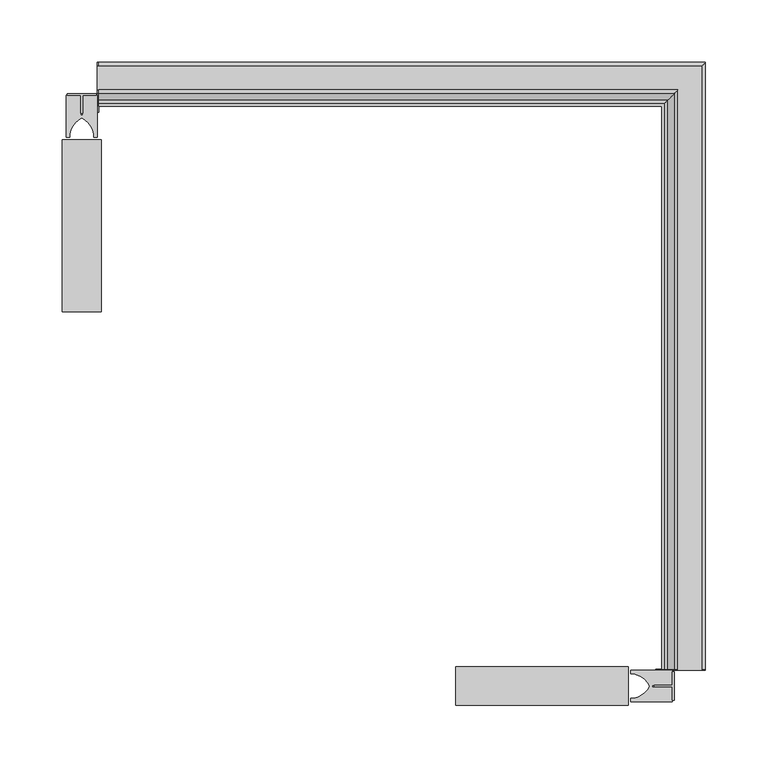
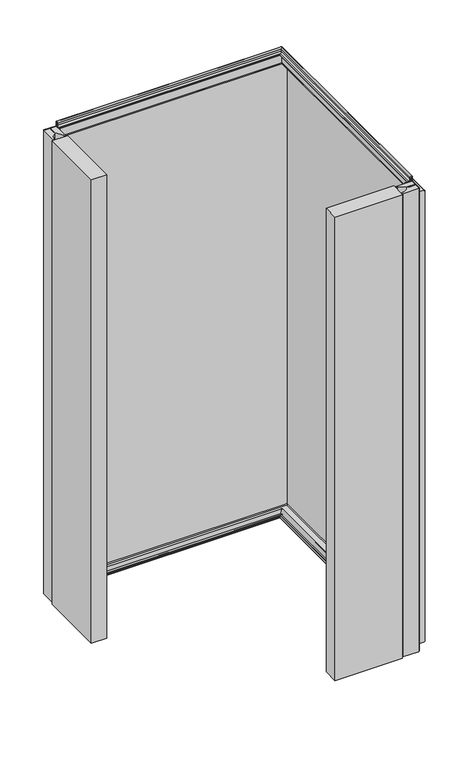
"""IFC4 building model written with IfcOpenShell, lengths in millimetres: plate geometry, Угловой модуль Fronttop : Угловой модуль Fronttop 200/1000."""

from ifc_helpers import new_model, si_unit, point, frame, frame_2d, origin, origin_with_axes, place, context, project, spatial, polyline, circle_curve, ellipse_curve, trimmed, segment, composite_curve, outline, extrude, source, transform, mapped, element, save
from ifc_brep_helpers import plane_surface, cylinder_surface, revolved_surface, advanced_brep


def plate_f072485e(model_context):
    return source(origin(), model_context, "Body", "SolidModel", [
        extrude(outline(polyline([(225.0, -288.4948846), (225.0, -311.5051154), (223.5, -311.5051154), (223.5, -300.6502496), (209.0759655, -300.6502496), (209.0759655, -299.35), (223.5, -299.35), (223.5, -288.4948846), (225.0, -288.4948846)])), origin_with_axes(), (0.0, 0.0, 1.0), 1000.0),
        extrude(outline(composite_curve([segment(polyline([(223.5, -287.4998455), (223.5, -299.25), (207.5, -299.25), (207.5, -300.75), (223.5, -300.75), (223.5, -312.5001545), (190.0, -312.5001545), (190.0, -309.75), (192.5, -309.75)]), True, "CONTINUOUS"), segment(trimmed(circle_curve(frame_2d((189.3183984, -291.9661979)), 18.0661619), [point((192.5, -309.75))], [point((205.5, -300.0))], True, "CARTESIAN"), True, "CONTINUOUS"), segment(trimmed(circle_curve(frame_2d((189.3183984, -308.0338021)), 18.0661619), [point((205.5, -300.0))], [point((192.5, -290.25))], True, "CARTESIAN"), True, "CONTINUOUS"), segment(polyline([(192.5, -290.25), (190.0, -290.25), (190.0, -287.4998455), (223.5, -287.4998455)]), True, "CONTINUOUS")], self_intersect=False)), origin_with_axes(), (0.0, 0.0, 1.0), 1000.0),
        extrude(outline(polyline([(50.0, -315.5), (50.0, -284.5), (188.0, -284.5), (188.0, -315.5), (50.0, -315.5)])), origin_with_axes(), (0.0, 0.0, 1.0), 1000.0),
        extrude(outline(polyline([(-261.5051154, 175.0), (-238.4948846, 175.0), (-238.4948846, 173.5), (-249.3497504, 173.5), (-249.3497504, 159.0759655), (-250.65, 159.0759655), (-250.65, 173.5), (-261.5051154, 173.5), (-261.5051154, 175.0)])), origin_with_axes(), (0.0, 0.0, 1.0), 1000.0),
        extrude(outline(composite_curve([segment(polyline([(-262.5001545, 173.5), (-250.75, 173.5), (-250.75, 157.5), (-249.25, 157.5), (-249.25, 173.5), (-237.4998455, 173.5), (-237.4998455, 140.0), (-240.25, 140.0), (-240.25, 142.5)]), True, "CONTINUOUS"), segment(trimmed(circle_curve(frame_2d((-258.0338021, 139.3183984)), 18.0661619), [point((-240.25, 142.5))], [point((-250.0, 155.5))], True, "CARTESIAN"), True, "CONTINUOUS"), segment(trimmed(circle_curve(frame_2d((-241.9661979, 139.3183984)), 18.0661619), [point((-250.0, 155.5))], [point((-259.75, 142.5))], True, "CARTESIAN"), True, "CONTINUOUS"), segment(polyline([(-259.75, 142.5), (-259.75, 140.0), (-262.5001545, 140.0), (-262.5001545, 173.5)]), True, "CONTINUOUS")], self_intersect=False)), origin_with_axes(), (0.0, 0.0, 1.0), 1000.0),
        extrude(outline(polyline([(-234.5, 0.0), (-265.5, 0.0), (-265.5, 138.0), (-234.5, 138.0), (-234.5, 0.0)])), origin_with_axes(), (0.0, 0.0, 1.0), 1000.0),
        advanced_brep(
        [(-236.5, 174.0, 1008.0), (-236.5, 171.0, 1008.0), (-236.5, 171.0, 1004.0), (-236.5, 167.0, 1000.0), (-236.5, 165.0, 1000.0), (-236.5, 165.0, 1001.0), (-236.5, 167.0, 1001.0), (-236.5, 170.0, 1004.0), (-236.5, 170.0, 1008.0), (-236.5, 175.0, 1008.0), (-236.5, 175.0, 1000.0), (-236.5, 174.0, 1000.0), (-236.5, 165.0, 2.0), (215.0, 165.0, 2.0), (215.0, 165.0, 3.0), (-236.5, 165.0, 3.0), (215.0, -286.5, 3.0), (217.0, -286.5, 3.0), (217.0, 167.0, 3.0), (-236.5, 167.0, 3.0), (218.0, 168.0, 4.0), (-236.5, 168.0, 4.0), (218.0, 168.0, 8.0), (-236.5, 168.0, 8.0), (227.0, 177.0, 8.0), (-236.5, 177.0, 8.0), (227.0, 177.0, 0.0), (-236.5, 177.0, 0.0), (229.0, 179.0, -2.0), (-236.5, 179.0, -2.0), (229.0, -286.5, -2.0), (247.0, -286.5, -2.0), (247.0, 197.0, -2.0), (-236.5, 197.0, -2.0), (249.0, 199.0, 0.0), (-236.5, 199.0, 0.0), (249.0, 199.0, 969.0), (-236.5, 199.0, 969.0), (247.0, 197.0, 971.0), (-236.5, 197.0, 971.0), (247.0, -286.5, 971.0), (228.0, -286.5, 971.0), (228.0, 178.0, 971.0), (-236.5, 178.0, 971.0), (224.0, 174.0, 975.0), (-236.5, 174.0, 975.0), (224.0, 174.0, 1008.0), (221.0, 171.0, 1008.0), (221.0, 171.0, 1004.0), (217.0, 167.0, 1000.0), (217.0, -286.5, 1000.0), (215.0, -286.5, 1000.0), (215.0, 165.0, 1000.0), (215.0, 165.0, 1001.0), (215.0, -286.5, 1001.0), (217.0, -286.5, 1001.0), (217.0, 167.0, 1001.0), (220.0, 170.0, 1004.0), (220.0, 170.0, 1008.0), (225.0, 175.0, 1008.0), (225.0, 175.0, 975.0), (-236.5, 175.0, 975.0), (-237.5, 175.0, 975.0), (-237.5, 175.0, 1000.0), (228.0, 178.0, 972.0), (-236.5, 178.0, 972.0), (228.0, -286.5, 972.0), (228.0, -287.5, 972.0), (247.0, -287.5, 972.0), (247.0, -286.5, 972.0), (247.0, 197.0, 972.0), (-236.5, 197.0, 972.0), (-237.5, 197.0, 972.0), (-237.5, 178.0, 972.0), (250.0, 200.0, 969.0), (-236.5, 200.0, 969.0), (250.0, 200.0, 0.0), (-236.5, 200.0, 0.0), (-237.5, 200.0, 0.0), (-237.5, 200.0, 969.0), (247.0, 197.0, -3.0), (-236.5, 197.0, -3.0), (247.0, -286.5, -3.0), (247.0, -287.5, -3.0), (225.0, -287.5, -3.0), (225.0, -286.5, -3.0), (229.0, -286.5, -3.0), (229.0, 179.0, -3.0), (-236.5, 179.0, -3.0), (-236.5, 175.0, -3.0), (-237.5, 175.0, -3.0), (-237.5, 197.0, -3.0), (226.0, 176.0, 0.0), (-236.5, 176.0, 0.0), (226.0, 176.0, 8.0), (-236.5, 176.0, 8.0), (219.0, 169.0, 8.0), (-236.5, 169.0, 8.0), (219.0, 169.0, 4.0), (-236.5, 169.0, 4.0), (217.0, 167.0, 2.0), (-236.5, 167.0, 2.0), (217.0, -286.5, 2.0), (215.0, -286.5, 2.0), (221.0, -286.5, 1004.0), (221.0, -286.5, 1008.0), (224.0, -286.5, 1008.0), (224.0, -286.5, 1000.0), (225.0, -286.5, 1000.0), (225.0, -286.5, 1008.0), (220.0, -286.5, 1008.0), (220.0, -286.5, 1004.0), (218.0, -286.5, 4.0), (218.0, -286.5, 8.0), (227.0, -286.5, 8.0), (227.0, -286.5, 0.0), (249.0, -286.5, 0.0), (249.0, -286.5, 969.0), (224.0, -286.5, 975.0), (225.0, -287.5, 1000.0), (225.0, -287.5, 975.0), (225.0, -286.5, 975.0), (250.0, -286.5, 969.0), (250.0, -287.5, 969.0), (250.0, -287.5, 0.0), (250.0, -286.5, 0.0), (226.0, -286.5, 0.0), (226.0, -286.5, 8.0), (219.0, -286.5, 8.0), (219.0, -286.5, 4.0), (-236.5, 160.0, 1000.0), (-236.5, 160.0, 0.0), (-236.5, 175.0, 0.0), (-237.5, 175.0, 0.0), (-237.5, 160.0, 0.0), (-237.5, 160.0, 1000.0), (210.0, -286.5, 0.0), (210.0, -286.5, 1000.0), (225.0, -286.5, 0.0), (210.0, -287.5, 0.0), (225.0, -287.5, 0.0), (210.0, -287.5, 1000.0)],
        [
            (0, 1, circle_curve(frame((-236.5, 172.5, 1008.0), z_axis=(1.0, 0.0, 0.0), x_axis=(0.0, -1.0, 0.0)), 1.5)),
            (1, 2),
            (2, 3, circle_curve(frame((-236.5, 167.0, 1004.0), z_axis=(-1.0, 0.0, 0.0), x_axis=(0.0, -1.0, 0.0)), 4.0)),
            (3, 4),
            (4, 5),
            (5, 6),
            (6, 7, circle_curve(frame((-236.5, 167.0, 1004.0), z_axis=(1.0, 0.0, 0.0), x_axis=(0.0, -1.0, 0.0)), 3.0)),
            (7, 8),
            (8, 9, circle_curve(frame((-236.5, 172.5, 1008.0), z_axis=(-1.0, 0.0, 0.0), x_axis=(0.0, -1.0, 0.0)), 2.5)),
            (9, 10),
            (10, 11),
            (11, 0),
            (12, 13),
            (13, 14),
            (14, 15),
            (15, 12),
            (14, 16),
            (16, 17),
            (17, 18),
            (18, 19),
            (19, 15),
            (18, 20, ellipse_curve(frame((217.0, 167.0, 4.0), z_axis=(0.7071067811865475, -0.7071067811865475, 0.0), x_axis=(0.7071067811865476, 0.7071067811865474, 0.0)), 1.4142136, 1.0)),
            (20, 21),
            (21, 19, circle_curve(frame((-236.5, 167.0, 4.0), z_axis=(-1.0, 0.0, 0.0), x_axis=(0.0, -1.0, 0.0)), 1.0)),
            (20, 22),
            (22, 23),
            (23, 21),
            (22, 24, ellipse_curve(frame((222.5, 172.5, 8.0), z_axis=(-0.7071067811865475, 0.7071067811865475, 0.0), x_axis=(-0.7071067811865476, -0.7071067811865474, 0.0)), 6.363961, 4.5)),
            (24, 25),
            (25, 23, circle_curve(frame((-236.5, 172.5, 8.0), z_axis=(1.0, 0.0, 0.0), x_axis=(0.0, -1.0, 0.0)), 4.5)),
            (24, 26),
            (26, 27),
            (27, 25),
            (26, 28, ellipse_curve(frame((229.0, 179.0, 0.0), z_axis=(0.7071067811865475, -0.7071067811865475, 0.0), x_axis=(0.7071067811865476, 0.7071067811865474, 0.0)), 2.8284271, 2.0)),
            (28, 29),
            (29, 27, circle_curve(frame((-236.5, 179.0, 0.0), z_axis=(-1.0, 0.0, 0.0), x_axis=(0.0, -1.0, 0.0)), 2.0)),
            (28, 30),
            (30, 31),
            (31, 32),
            (32, 33),
            (33, 29),
            (32, 34, ellipse_curve(frame((247.0, 197.0, 0.0), z_axis=(0.7071067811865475, -0.7071067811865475, 0.0), x_axis=(0.7071067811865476, 0.7071067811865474, 0.0)), 2.8284271, 2.0)),
            (34, 35),
            (35, 33, circle_curve(frame((-236.5, 197.0, 0.0), z_axis=(-1.0, 0.0, 0.0), x_axis=(0.0, -1.0, 0.0)), 2.0)),
            (34, 36),
            (36, 37),
            (37, 35),
            (36, 38, ellipse_curve(frame((247.0, 197.0, 969.0), z_axis=(0.7071067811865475, -0.7071067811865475, 0.0), x_axis=(0.7071067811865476, 0.7071067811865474, 0.0)), 2.8284271, 2.0)),
            (38, 39),
            (39, 37, circle_curve(frame((-236.5, 197.0, 969.0), z_axis=(-1.0, 0.0, 0.0), x_axis=(0.0, -1.0, 0.0)), 2.0)),
            (38, 40),
            (40, 41),
            (41, 42),
            (42, 43),
            (43, 39),
            (42, 44, ellipse_curve(frame((228.0, 178.0, 975.0), z_axis=(-0.7071067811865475, 0.7071067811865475, 0.0), x_axis=(-0.7071067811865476, -0.7071067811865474, 0.0)), 5.6568542, 4.0)),
            (44, 45),
            (45, 43, circle_curve(frame((-236.5, 178.0, 975.0), z_axis=(1.0, 0.0, 0.0), x_axis=(0.0, -1.0, 0.0)), 4.0)),
            (44, 46),
            (46, 0),
            (11, 45),
            (46, 47, ellipse_curve(frame((222.5, 172.5, 1008.0), z_axis=(0.7071067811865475, -0.7071067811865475, 0.0), x_axis=(0.7071067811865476, 0.7071067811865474, 0.0)), 2.1213203, 1.5)),
            (47, 1),
            (47, 48),
            (48, 2),
            (48, 49, ellipse_curve(frame((217.0, 167.0, 1004.0), z_axis=(-0.7071067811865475, 0.7071067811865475, 0.0), x_axis=(-0.7071067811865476, -0.7071067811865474, 0.0)), 5.6568542, 4.0)),
            (49, 3),
            (49, 50),
            (50, 51),
            (51, 52),
            (52, 4),
            (4, 3),
            (52, 53),
            (53, 5),
            (53, 54),
            (54, 55),
            (55, 56),
            (56, 6),
            (56, 57, ellipse_curve(frame((217.0, 167.0, 1004.0), z_axis=(0.7071067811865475, -0.7071067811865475, 0.0), x_axis=(0.7071067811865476, 0.7071067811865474, 0.0)), 4.2426407, 3.0)),
            (57, 7),
            (57, 58),
            (58, 8),
            (58, 59, ellipse_curve(frame((222.5, 172.5, 1008.0), z_axis=(-0.7071067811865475, 0.7071067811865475, 0.0), x_axis=(-0.7071067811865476, -0.7071067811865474, 0.0)), 3.5355339, 2.5)),
            (59, 9),
            (59, 60),
            (60, 61),
            (61, 62),
            (62, 63),
            (63, 10),
            (60, 64, ellipse_curve(frame((228.0, 178.0, 975.0), z_axis=(0.7071067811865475, -0.7071067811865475, 0.0), x_axis=(0.7071067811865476, 0.7071067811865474, 0.0)), 4.2426407, 3.0)),
            (64, 65),
            (65, 61, circle_curve(frame((-236.5, 178.0, 975.0), z_axis=(-1.0, 0.0, 0.0), x_axis=(0.0, -1.0, 0.0)), 3.0)),
            (64, 66),
            (66, 67),
            (67, 68),
            (68, 69),
            (69, 70),
            (70, 71),
            (71, 72),
            (72, 73),
            (73, 65),
            (70, 74, ellipse_curve(frame((247.0, 197.0, 969.0), z_axis=(-0.7071067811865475, 0.7071067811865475, 0.0), x_axis=(-0.7071067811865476, -0.7071067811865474, 0.0)), 4.2426407, 3.0)),
            (74, 75),
            (75, 71, circle_curve(frame((-236.5, 197.0, 969.0), z_axis=(1.0, 0.0, 0.0), x_axis=(0.0, -1.0, 0.0)), 3.0)),
            (74, 76),
            (76, 77),
            (77, 78),
            (78, 79),
            (79, 75),
            (76, 80, ellipse_curve(frame((247.0, 197.0, 0.0), z_axis=(-0.7071067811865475, 0.7071067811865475, 0.0), x_axis=(-0.7071067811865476, -0.7071067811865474, 0.0)), 4.2426407, 3.0)),
            (80, 81),
            (81, 77, circle_curve(frame((-236.5, 197.0, 0.0), z_axis=(1.0, 0.0, 0.0), x_axis=(0.0, -1.0, 0.0)), 3.0)),
            (80, 82),
            (82, 83),
            (83, 84),
            (84, 85),
            (85, 86),
            (86, 87),
            (87, 88),
            (88, 89),
            (89, 90),
            (90, 91),
            (91, 81),
            (87, 92, ellipse_curve(frame((229.0, 179.0, 0.0), z_axis=(-0.7071067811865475, 0.7071067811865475, 0.0), x_axis=(-0.7071067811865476, -0.7071067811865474, 0.0)), 4.2426407, 3.0)),
            (92, 93),
            (93, 88, circle_curve(frame((-236.5, 179.0, 0.0), z_axis=(1.0, 0.0, 0.0), x_axis=(0.0, -1.0, 0.0)), 3.0)),
            (92, 94),
            (94, 95),
            (95, 93),
            (94, 96, ellipse_curve(frame((222.5, 172.5, 8.0), z_axis=(0.7071067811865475, -0.7071067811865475, 0.0), x_axis=(0.7071067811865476, 0.7071067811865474, 0.0)), 4.9497475, 3.5)),
            (96, 97),
            (97, 95, circle_curve(frame((-236.5, 172.5, 8.0), z_axis=(-1.0, 0.0, 0.0), x_axis=(0.0, -1.0, 0.0)), 3.5)),
            (96, 98),
            (98, 99),
            (99, 97),
            (98, 100, ellipse_curve(frame((217.0, 167.0, 4.0), z_axis=(-0.7071067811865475, 0.7071067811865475, 0.0), x_axis=(-0.7071067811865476, -0.7071067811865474, 0.0)), 2.8284271, 2.0)),
            (100, 101),
            (101, 99, circle_curve(frame((-236.5, 167.0, 4.0), z_axis=(1.0, 0.0, 0.0), x_axis=(0.0, -1.0, 0.0)), 2.0)),
            (12, 101),
            (100, 102),
            (102, 103),
            (103, 13),
            (54, 51),
            (51, 50),
            (50, 104, circle_curve(frame((217.0, -286.5, 1004.0), z_axis=(0.0, -1.0, 0.0), x_axis=(-1.0, 0.0, 0.0)), 4.0)),
            (104, 105),
            (105, 106, circle_curve(frame((222.5, -286.5, 1008.0), z_axis=(0.0, 1.0, 0.0), x_axis=(-1.0, 0.0, 0.0)), 1.5)),
            (106, 107),
            (107, 108),
            (108, 109),
            (109, 110, circle_curve(frame((222.5, -286.5, 1008.0), z_axis=(0.0, -1.0, 0.0), x_axis=(-1.0, 0.0, 0.0)), 2.5)),
            (110, 111),
            (111, 55, circle_curve(frame((217.0, -286.5, 1004.0), z_axis=(0.0, 1.0, 0.0), x_axis=(-1.0, 0.0, 0.0)), 3.0)),
            (103, 16),
            (17, 112, circle_curve(frame((217.0, -286.5, 4.0), z_axis=(0.0, -1.0, 0.0), x_axis=(-1.0, 0.0, 0.0)), 1.0)),
            (112, 20),
            (112, 113),
            (113, 22),
            (113, 114, circle_curve(frame((222.5, -286.5, 8.0), z_axis=(0.0, 1.0, 0.0), x_axis=(-1.0, 0.0, 0.0)), 4.5)),
            (114, 24),
            (114, 115),
            (115, 26),
            (115, 30, circle_curve(frame((229.0, -286.5, 0.0), z_axis=(0.0, -1.0, 0.0), x_axis=(-1.0, 0.0, 0.0)), 2.0)),
            (31, 116, circle_curve(frame((247.0, -286.5, 0.0), z_axis=(0.0, -1.0, 0.0), x_axis=(-1.0, 0.0, 0.0)), 2.0)),
            (116, 34),
            (116, 117),
            (117, 36),
            (117, 40, circle_curve(frame((247.0, -286.5, 969.0), z_axis=(0.0, -1.0, 0.0), x_axis=(-1.0, 0.0, 0.0)), 2.0)),
            (41, 118, circle_curve(frame((228.0, -286.5, 975.0), z_axis=(0.0, 1.0, 0.0), x_axis=(-1.0, 0.0, 0.0)), 4.0)),
            (118, 44),
            (118, 107),
            (106, 46),
            (105, 47),
            (104, 48),
            (111, 57),
            (110, 58),
            (109, 59),
            (108, 119),
            (119, 120),
            (120, 121),
            (121, 60),
            (121, 66, circle_curve(frame((228.0, -286.5, 975.0), z_axis=(0.0, -1.0, 0.0), x_axis=(-1.0, 0.0, 0.0)), 3.0)),
            (69, 122, circle_curve(frame((247.0, -286.5, 969.0), z_axis=(0.0, 1.0, 0.0), x_axis=(-1.0, 0.0, 0.0)), 3.0)),
            (122, 74),
            (122, 123),
            (123, 124),
            (124, 125),
            (125, 76),
            (125, 82, circle_curve(frame((247.0, -286.5, 0.0), z_axis=(0.0, 1.0, 0.0), x_axis=(-1.0, 0.0, 0.0)), 3.0)),
            (86, 126, circle_curve(frame((229.0, -286.5, 0.0), z_axis=(0.0, 1.0, 0.0), x_axis=(-1.0, 0.0, 0.0)), 3.0)),
            (126, 92),
            (126, 127),
            (127, 94),
            (127, 128, circle_curve(frame((222.5, -286.5, 8.0), z_axis=(0.0, -1.0, 0.0), x_axis=(-1.0, 0.0, 0.0)), 3.5)),
            (128, 96),
            (128, 129),
            (129, 98),
            (129, 102, circle_curve(frame((217.0, -286.5, 4.0), z_axis=(0.0, 1.0, 0.0), x_axis=(-1.0, 0.0, 0.0)), 2.0)),
            (130, 131),
            (131, 132),
            (132, 89),
            (11, 3),
            (4, 130),
            (62, 73, circle_curve(frame((-237.5, 178.0, 975.0), z_axis=(1.0, 0.0, 0.0), x_axis=(0.0, 1.0, 0.0)), 3.0)),
            (72, 79, circle_curve(frame((-237.5, 197.0, 969.0), z_axis=(-1.0, 0.0, 0.0), x_axis=(0.0, 1.0, 0.0)), 3.0)),
            (78, 91, circle_curve(frame((-237.5, 197.0, 0.0), z_axis=(-1.0, 0.0, 0.0), x_axis=(0.0, 1.0, 0.0)), 3.0)),
            (90, 133),
            (133, 134),
            (134, 135),
            (135, 63),
            (135, 130),
            (134, 131),
            (133, 132),
            (136, 137),
            (137, 51),
            (50, 107),
            (85, 138),
            (138, 136),
            (139, 140),
            (140, 84),
            (83, 124, circle_curve(frame((247.0, -287.5, 0.0), z_axis=(0.0, -1.0, 0.0), x_axis=(-1.0, 0.0, 0.0)), 3.0)),
            (123, 68, circle_curve(frame((247.0, -287.5, 969.0), z_axis=(0.0, -1.0, 0.0), x_axis=(-1.0, 0.0, 0.0)), 3.0)),
            (67, 120, circle_curve(frame((228.0, -287.5, 975.0), z_axis=(0.0, 1.0, 0.0), x_axis=(-1.0, 0.0, 0.0)), 3.0)),
            (119, 141),
            (141, 139),
            (138, 140),
            (139, 136),
            (137, 141),
        ],
        [
            plane_surface(frame((-236.5, 0.0, 0.0), z_axis=(-1.0, 0.0, 0.0), x_axis=(0.0, 0.0, 1.0))),
            plane_surface(frame((-236.5, 165.0, 2.0), z_axis=(0.0, -1.0, 0.0), x_axis=(1.0, 0.0, 0.0))),
            plane_surface(frame((-236.5, 165.0, 3.0), z_axis=(0.0, 0.0, 1.0), x_axis=(1.0, 0.0, 0.0))),
            revolved_surface(polyline([(218.00000002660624, 166.0, 4.0), (-236.5, 166.0, 4.0)]), (-236.5, 167.0, 4.0), (1.0, 0.0, 0.0)),
            plane_surface(frame((-236.5, 168.0, 4.0), z_axis=(0.0, -1.0, 0.0), x_axis=(1.0, 0.0, 0.0))),
            cylinder_surface(frame((-236.5, 172.5, 8.0), z_axis=(-1.0, 0.0, 0.0), x_axis=(0.0, -1.0, 0.0)), 4.5),
            plane_surface(frame((-236.5, 177.0, 8.0), z_axis=(0.0, 1.0, 0.0), x_axis=(1.0, 0.0, 0.0))),
            revolved_surface(polyline([(230.99999998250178, 177.0, 0.0), (-236.5, 177.0, 0.0)]), (-236.5, 179.0, 0.0), (1.0, 0.0, 0.0)),
            plane_surface(frame((-236.5, 179.0, -2.0), z_axis=(0.0, 0.0, 1.0), x_axis=(1.0, 0.0, 0.0))),
            revolved_surface(polyline([(249.0, 195.0, 0.0), (-236.5, 195.0, 0.0)]), (-236.5, 197.0, 0.0), (1.0, 0.0, 0.0)),
            plane_surface(frame((-236.5, 199.0, 0.0), z_axis=(0.0, -1.0, 0.0), x_axis=(1.0, 0.0, 0.0))),
            revolved_surface(polyline([(249.0, 195.0, 969.0), (-236.5, 195.0, 969.0)]), (-236.5, 197.0, 969.0), (1.0, 0.0, 0.0)),
            plane_surface(frame((-236.5, 197.0, 971.0), z_axis=(0.0, 0.0, -1.0), x_axis=(1.0, 0.0, 0.0))),
            cylinder_surface(frame((-236.5, 178.0, 975.0), z_axis=(-1.0, 0.0, 0.0), x_axis=(0.0, -1.0, 0.0)), 4.0),
            plane_surface(frame((-236.5, 174.0, 975.0), z_axis=(0.0, -1.0, 0.0), x_axis=(1.0, 0.0, 0.0))),
            revolved_surface(polyline([(224.0, 171.0, 1008.0), (-236.5, 171.0, 1008.0)]), (-236.5, 172.5, 1008.0), (1.0, 0.0, 0.0)),
            plane_surface(frame((-236.5, 171.0, 1008.0), z_axis=(0.0, 1.0, 0.0), x_axis=(1.0, 0.0, 0.0))),
            cylinder_surface(frame((-236.5, 167.0, 1004.0), z_axis=(-1.0, 0.0, 0.0), x_axis=(0.0, -1.0, 0.0)), 4.0),
            plane_surface(frame((-236.5, 167.0, 1000.0), z_axis=(0.0, 0.0, -1.0), x_axis=(1.0, 0.0, 0.0))),
            plane_surface(frame((-236.5, 165.0, 1000.0), z_axis=(0.0, -1.0, 0.0), x_axis=(1.0, 0.0, 0.0))),
            plane_surface(frame((-236.5, 165.0, 1001.0), z_axis=(0.0, 0.0, 1.0), x_axis=(1.0, 0.0, 0.0))),
            revolved_surface(polyline([(220.00000000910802, 164.0, 1004.0), (-236.5, 164.0, 1004.0)]), (-236.5, 167.0, 1004.0), (1.0, 0.0, 0.0)),
            plane_surface(frame((-236.5, 170.0, 1004.0), z_axis=(0.0, -1.0, 0.0), x_axis=(1.0, 0.0, 0.0))),
            cylinder_surface(frame((-236.5, 172.5, 1008.0), z_axis=(-1.0, 0.0, 0.0), x_axis=(0.0, -1.0, 0.0)), 2.5),
            plane_surface(frame((-236.5, 175.0, 1008.0), z_axis=(0.0, 1.0, 0.0), x_axis=(1.0, 0.0, 0.0))),
            revolved_surface(polyline([(231.00000000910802, 175.0, 975.0), (-236.5, 175.0, 975.0)]), (-236.5, 178.0, 975.0), (1.0, 0.0, 0.0)),
            plane_surface(frame((-236.5, 178.0, 972.0), z_axis=(0.0, 0.0, 1.0), x_axis=(1.0, 0.0, 0.0))),
            cylinder_surface(frame((-236.5, 197.0, 969.0), z_axis=(-1.0, 0.0, 0.0), x_axis=(0.0, -1.0, 0.0)), 3.0),
            plane_surface(frame((-236.5, 200.0, 969.0), z_axis=(0.0, 1.0, 0.0), x_axis=(1.0, 0.0, 0.0))),
            cylinder_surface(frame((-236.5, 197.0, 0.0), z_axis=(-1.0, 0.0, 0.0), x_axis=(0.0, -1.0, 0.0)), 3.0),
            plane_surface(frame((-236.5, 197.0, -3.0), z_axis=(0.0, 0.0, -1.0), x_axis=(1.0, 0.0, 0.0))),
            cylinder_surface(frame((-236.5, 179.0, 0.0), z_axis=(-1.0, 0.0, 0.0), x_axis=(0.0, -1.0, 0.0)), 3.0),
            plane_surface(frame((-236.5, 176.0, 0.0), z_axis=(0.0, -1.0, 0.0), x_axis=(1.0, 0.0, 0.0))),
            revolved_surface(polyline([(226.00000002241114, 169.0, 8.0), (-236.5, 169.0, 8.0)]), (-236.5, 172.5, 8.0), (1.0, 0.0, 0.0)),
            plane_surface(frame((-236.5, 169.0, 8.0), z_axis=(0.0, 1.0, 0.0), x_axis=(1.0, 0.0, 0.0))),
            cylinder_surface(frame((-236.5, 167.0, 4.0), z_axis=(-1.0, 0.0, 0.0), x_axis=(0.0, -1.0, 0.0)), 2.0),
            plane_surface(frame((-236.5, 167.0, 2.0), z_axis=(0.0, 0.0, -1.0), x_axis=(1.0, 0.0, 0.0))),
            plane_surface(frame((50.0, -286.5, 0.0), z_axis=(0.0, -1.0, 0.0), x_axis=(0.0, 0.0, 1.0))),
            plane_surface(frame((215.0, 165.0, 2.0), z_axis=(-1.0, 0.0, 0.0), x_axis=(0.0, -1.0, 0.0))),
            revolved_surface(polyline([(216.0, -286.5, 4.0), (216.0, 168.00000002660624, 4.0)]), (217.0, 0.0, 4.0), (0.0, -1.0, 0.0)),
            plane_surface(frame((218.0, 168.0, 4.0), z_axis=(-1.0, 0.0, 0.0), x_axis=(0.0, -1.0, 0.0))),
            cylinder_surface(frame((222.5, 0.0, 8.0), z_axis=(0.0, 1.0, 0.0), x_axis=(-1.0, 0.0, 0.0)), 4.5),
            plane_surface(frame((227.0, 177.0, 8.0), z_axis=(1.0, 0.0, 0.0), x_axis=(0.0, -1.0, 0.0))),
            revolved_surface(polyline([(227.0, -286.5, 0.0), (227.0, 180.9999999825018, 0.0)]), (229.0, 0.0, 0.0), (0.0, -1.0, 0.0)),
            revolved_surface(polyline([(245.0, -286.5, 0.0), (245.0, 199.0, 0.0)]), (247.0, 0.0, 0.0), (0.0, -1.0, 0.0)),
            plane_surface(frame((249.0, 199.0, 0.0), z_axis=(-1.0, 0.0, 0.0), x_axis=(0.0, -1.0, 0.0))),
            revolved_surface(polyline([(245.0, -286.5, 969.0), (245.0, 199.0, 969.0)]), (247.0, 0.0, 969.0), (0.0, -1.0, 0.0)),
            cylinder_surface(frame((228.0, 0.0, 975.0), z_axis=(0.0, 1.0, 0.0), x_axis=(-1.0, 0.0, 0.0)), 4.0),
            plane_surface(frame((224.0, 174.0, 975.0), z_axis=(-1.0, 0.0, 0.0), x_axis=(0.0, -1.0, 0.0))),
            revolved_surface(polyline([(221.0, -286.5, 1008.0), (221.0, 174.0, 1008.0)]), (222.5, 0.0, 1008.0), (0.0, -1.0, 0.0)),
            plane_surface(frame((221.0, 171.0, 1008.0), z_axis=(1.0, 0.0, 0.0), x_axis=(0.0, -1.0, 0.0))),
            cylinder_surface(frame((217.0, 0.0, 1004.0), z_axis=(0.0, 1.0, 0.0), x_axis=(-1.0, 0.0, 0.0)), 4.0),
            plane_surface(frame((215.0, 165.0, 1000.0), z_axis=(-1.0, 0.0, 0.0), x_axis=(0.0, -1.0, 0.0))),
            revolved_surface(polyline([(214.0, -286.5, 1004.0), (214.0, 170.00000000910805, 1004.0)]), (217.0, 0.0, 1004.0), (0.0, -1.0, 0.0)),
            plane_surface(frame((220.0, 170.0, 1004.0), z_axis=(-1.0, 0.0, 0.0), x_axis=(0.0, -1.0, 0.0))),
            cylinder_surface(frame((222.5, 0.0, 1008.0), z_axis=(0.0, 1.0, 0.0), x_axis=(-1.0, 0.0, 0.0)), 2.5),
            plane_surface(frame((225.0, 175.0, 1008.0), z_axis=(1.0, 0.0, 0.0), x_axis=(0.0, -1.0, 0.0))),
            revolved_surface(polyline([(225.0, -286.5, 975.0), (225.0, 181.00000000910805, 975.0)]), (228.0, 0.0, 975.0), (0.0, -1.0, 0.0)),
            cylinder_surface(frame((247.0, 0.0, 969.0), z_axis=(0.0, 1.0, 0.0), x_axis=(-1.0, 0.0, 0.0)), 3.0),
            plane_surface(frame((250.0, 200.0, 969.0), z_axis=(1.0, 0.0, 0.0), x_axis=(0.0, -1.0, 0.0))),
            cylinder_surface(frame((247.0, 0.0, 0.0), z_axis=(0.0, 1.0, 0.0), x_axis=(-1.0, 0.0, 0.0)), 3.0),
            cylinder_surface(frame((229.0, 0.0, 0.0), z_axis=(0.0, 1.0, 0.0), x_axis=(-1.0, 0.0, 0.0)), 3.0),
            plane_surface(frame((226.0, 176.0, 0.0), z_axis=(-1.0, 0.0, 0.0), x_axis=(0.0, -1.0, 0.0))),
            revolved_surface(polyline([(219.0, -286.5, 8.0), (219.0, 176.00000002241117, 8.0)]), (222.5, 0.0, 8.0), (0.0, -1.0, 0.0)),
            plane_surface(frame((219.0, 169.0, 8.0), z_axis=(1.0, 0.0, 0.0), x_axis=(0.0, -1.0, 0.0))),
            cylinder_surface(frame((217.0, 0.0, 4.0), z_axis=(0.0, 1.0, 0.0), x_axis=(-1.0, 0.0, 0.0)), 2.0),
            plane_surface(frame((-236.5, 175.0, 1000.0), z_axis=(1.0, 0.0, 0.0), x_axis=(0.0, -1.0, 0.0))),
            plane_surface(frame((-237.5, 175.0, 1000.0), z_axis=(-1.0, 0.0, 0.0), x_axis=(0.0, 1.0, 0.0))),
            plane_surface(frame((-236.5, 175.0, 1000.0), z_axis=(0.0, 0.0, 1.0), x_axis=(-1.0, 0.0, 0.0))),
            plane_surface(frame((-236.5, 160.0, 1000.0), z_axis=(0.0, -1.0, 0.0), x_axis=(-1.0, 0.0, 0.0))),
            plane_surface(frame((-236.5, 160.0, 0.0), z_axis=(0.0, 0.0, -1.0), x_axis=(-1.0, 0.0, 0.0))),
            plane_surface(frame((-236.5, 175.0, 0.0), z_axis=(0.0, -1.0, 0.0), x_axis=(-1.0, 0.0, 0.0))),
            cylinder_surface(frame((-237.5, 197.0, 0.0), z_axis=(1.0, 0.0, 0.0), x_axis=(0.0, 1.0, 0.0)), 3.0),
            cylinder_surface(frame((-237.5, 197.0, 969.0), z_axis=(1.0, 0.0, 0.0), x_axis=(0.0, 1.0, 0.0)), 3.0),
            revolved_surface(polyline([(-237.5, 181.0, 975.0), (-236.5, 181.0, 975.0)]), (-237.5, 178.0, 975.0), (-1.0, 0.0, 0.0)),
            plane_surface(frame((210.0, -286.5, 1000.0), z_axis=(0.0, 1.0, 0.0), x_axis=(0.0, 0.0, 1.0))),
            plane_surface(frame((210.0, -287.5, 1000.0), z_axis=(0.0, -1.0, 0.0), x_axis=(0.0, 0.0, -1.0))),
            plane_surface(frame((225.0, -286.5, 0.0), z_axis=(0.0, 0.0, -1.0), x_axis=(0.0, -1.0, 0.0))),
            plane_surface(frame((225.0, -286.5, -3.0), z_axis=(-1.0, 0.0, 0.0), x_axis=(0.0, -1.0, 0.0))),
            cylinder_surface(frame((247.0, -287.5, 0.0), z_axis=(0.0, 1.0, 0.0), x_axis=(-1.0, 0.0, 0.0)), 3.0),
            cylinder_surface(frame((247.0, -287.5, 969.0), z_axis=(0.0, 1.0, 0.0), x_axis=(-1.0, 0.0, 0.0)), 3.0),
            revolved_surface(polyline([(225.0, -287.5, 975.0), (225.0, -286.5, 975.0)]), (228.0, -287.5, 975.0), (0.0, -1.0, 0.0)),
            plane_surface(frame((210.0, -286.5, 1000.0), z_axis=(0.0, 0.0, 1.0), x_axis=(0.0, -1.0, 0.0))),
            plane_surface(frame((210.0, -286.5, 0.0), z_axis=(-1.0, 0.0, 0.0), x_axis=(0.0, -1.0, 0.0))),
        ],
        [
            (0, [[1, 2, 3, 4, 5, 6, 7, 8, 9, 10, 11, 12]]),
            (1, [[13, 14, 15, 16]]),
            (2, [[-15, 17, 18, 19, 20, 21]]),
            (3, [[-20, 22, 23, 24]]),
            (4, [[-23, 25, 26, 27]]),
            (5, [[-26, 28, 29, 30]]),
            (6, [[-29, 31, 32, 33]]),
            (7, [[-32, 34, 35, 36]]),
            (8, [[-35, 37, 38, 39, 40, 41]]),
            (9, [[-40, 42, 43, 44]]),
            (10, [[-43, 45, 46, 47]]),
            (11, [[-46, 48, 49, 50]]),
            (12, [[-49, 51, 52, 53, 54, 55]]),
            (13, [[-54, 56, 57, 58]]),
            (14, [[-57, 59, 60, -12, 61]]),
            (15, [[-1, -60, 62, 63]]),
            (16, [[-2, -63, 64, 65]]),
            (17, [[-3, -65, 66, 67]]),
            (18, [[-67, 68, 69, 70, 71, 72]]),
            (19, [[-5, -71, 73, 74]]),
            (20, [[-6, -74, 75, 76, 77, 78]]),
            (21, [[-7, -78, 79, 80]]),
            (22, [[-8, -80, 81, 82]]),
            (23, [[-9, -82, 83, 84]]),
            (24, [[-84, 85, 86, 87, 88, 89, -10]]),
            (25, [[-86, 90, 91, 92]]),
            (26, [[-91, 93, 94, 95, 96, 97, 98, 99, 100, 101]]),
            (27, [[-98, 102, 103, 104]]),
            (28, [[-103, 105, 106, 107, 108, 109]]),
            (29, [[-106, 110, 111, 112]]),
            (30, [[-111, 113, 114, 115, 116, 117, 118, 119, 120, 121, 122, 123]]),
            (31, [[-119, 124, 125, 126]]),
            (32, [[-125, 127, 128, 129]]),
            (33, [[-128, 130, 131, 132]]),
            (34, [[-131, 133, 134, 135]]),
            (35, [[-134, 136, 137, 138]]),
            (36, [[-13, 139, -137, 140, 141, 142]]),
            (37, [[-76, 143, 144, 145, 146, 147, 148, 149, 150, 151, 152, 153]]),
            (38, [[-14, -142, 154, -17]]),
            (39, [[-19, 155, 156, -22]]),
            (40, [[-25, -156, 157, 158]]),
            (41, [[-28, -158, 159, 160]]),
            (42, [[-31, -160, 161, 162]]),
            (43, [[-34, -162, 163, -37]]),
            (44, [[-39, 164, 165, -42]]),
            (45, [[-45, -165, 166, 167]]),
            (46, [[-48, -167, 168, -51]]),
            (47, [[-53, 169, 170, -56]]),
            (48, [[-59, -170, 171, -148, 172]]),
            (49, [[-62, -172, -147, 173]]),
            (50, [[-64, -173, -146, 174]]),
            (51, [[-66, -174, -145, -68]]),
            (52, [[-70, -143, -75, -73]]),
            (53, [[-77, -153, 175, -79]]),
            (54, [[-81, -175, -152, 176]]),
            (55, [[-83, -176, -151, 177]]),
            (56, [[-85, -177, -150, 178, 179, 180, 181]]),
            (57, [[-90, -181, 182, -93]]),
            (58, [[-97, 183, 184, -102]]),
            (59, [[-105, -184, 185, 186, 187, 188]]),
            (60, [[-110, -188, 189, -113]]),
            (61, [[-118, 190, 191, -124]]),
            (62, [[-127, -191, 192, 193]]),
            (63, [[-130, -193, 194, 195]]),
            (64, [[-133, -195, 196, 197]]),
            (65, [[-136, -197, 198, -140]]),
            (66, [[199, 200, 201, -120, -126, -129, -132, -135, -138, -139, -16, -21, -24, -27, -30, -33, -36, -41, -44, -47, -50, -55, -58, -61, 202, -72, 203]]),
            (67, [[-88, 204, -100, 205, -108, 206, -122, 207, 208, 209, 210]]),
            (68, [[-210, 211, -203, -4, -202, -11, -89]]),
            (69, [[-199, -211, -209, 212]]),
            (70, [[-200, -212, -208, 213]]),
            (71, [[-201, -213, -207, -121]]),
            (72, [[-206, -107, -112, -123]]),
            (73, [[-205, -99, -104, -109]]),
            (74, [[-204, -87, -92, -101]]),
            (75, [[214, 215, -69, 216, -171, -169, -52, -168, -166, -164, -38, -163, -161, -159, -157, -155, -18, -154, -141, -198, -196, -194, -192, -190, -117, 217, 218]]),
            (76, [[219, 220, -115, 221, -186, 222, -95, 223, -179, 224, 225]]),
            (77, [[-218, 226, -219, 227]]),
            (78, [[-217, -116, -220, -226]]),
            (79, [[-221, -114, -189, -187]]),
            (80, [[-222, -185, -183, -96]]),
            (81, [[-223, -94, -182, -180]]),
            (82, [[-224, -178, -149, -216, -144, -215, 228]]),
            (83, [[-214, -227, -225, -228]]),
        ],
    ),
    ])


if __name__ == "__main__":
    model = new_model("IFC4")
    model_context = context("Model", 3, world=origin())
    ifc_project = project(units=[si_unit("LENGTHUNIT", "METRE", prefix="MILLI")], contexts=[model_context])
    site = spatial("IfcSite", under=ifc_project)
    building = spatial("IfcBuilding", under=site)
    placement = place(None, origin())
    plate_shape = plate_f072485e(model_context)
    element("IfcPlate", 1, ObjectType="Угловой модуль Fronttop : Угловой модуль Fronttop 200/1000", at=placement, inside=building, context=model_context, shape_type="MappedRepresentation", body=[
        mapped(plate_shape, transform((0.0, 0.0, 0.0), x_axis=(1.0, 0.0, 0.0), y_axis=(0.0, 1.0, 0.0), z_axis=(0.0, 0.0, 1.0))),
    ])
    save(model, "model.ifc")
